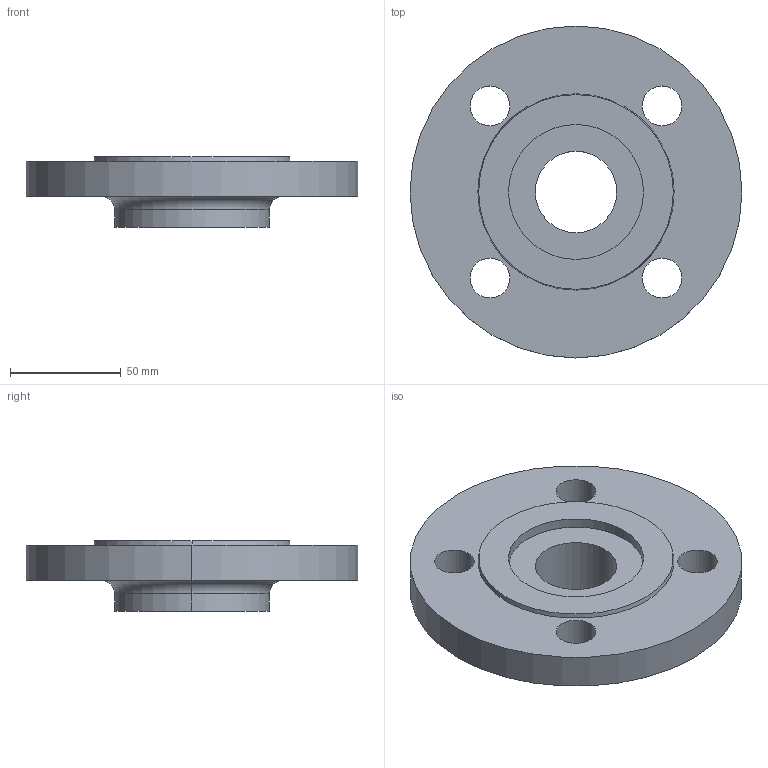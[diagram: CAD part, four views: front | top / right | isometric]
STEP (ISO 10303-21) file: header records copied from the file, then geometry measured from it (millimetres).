
FILE_DESCRIPTION (( 'STEP AP214' ), '1' );
FILE_NAME ('PN40 DN40 Type 13 - Type G Face.STEP', '2018-12-30T04:17:37', ( '' ), ( '' ), 'SwSTEP 2.0', 'SolidWorks 2019', '' );
FILE_SCHEMA (( 'AUTOMOTIVE_DESIGN' ));
Length unit declared in the file: millimetre
Products named in the file (1): PN40 DN40 Type 13 - Type G Face
Bounding box: 150 x 150 x 32 mm (x, y, z)
Volume: 292037.3 mm3; surface area: 49376.2 mm2
Topology: 1 solids, 1 shells, 25 faces, 58 edges, 38 vertices
Faces by surface type: cylinder 16, plane 5, torus 2, cone 2
Entity records: 790 total; most frequent: DIRECTION 150, CARTESIAN_POINT 122, ORIENTED_EDGE 116, AXIS2_PLACEMENT_3D 66, EDGE_CURVE 58, CIRCLE 40, VERTEX_POINT 38, EDGE_LOOP 38
